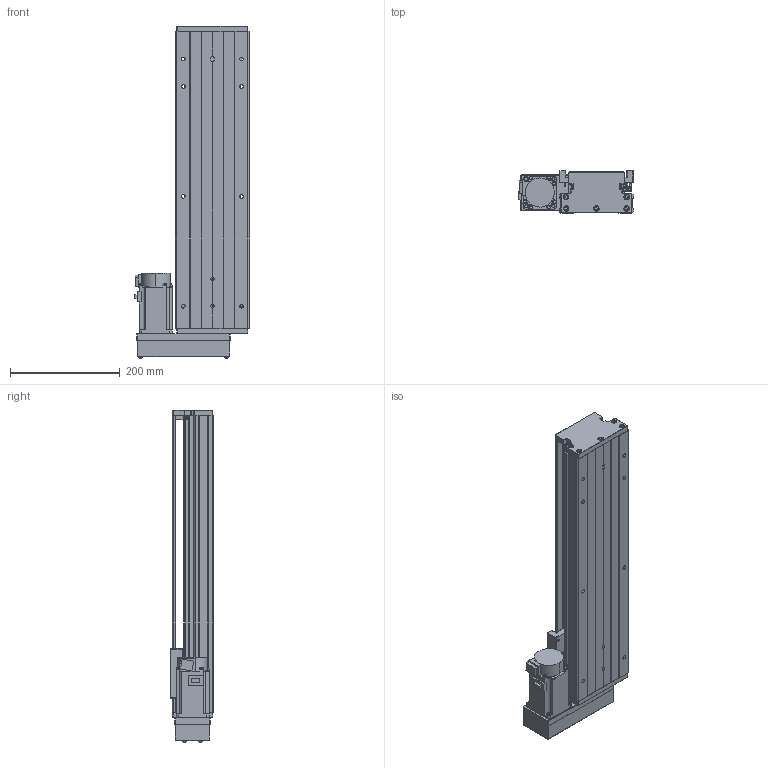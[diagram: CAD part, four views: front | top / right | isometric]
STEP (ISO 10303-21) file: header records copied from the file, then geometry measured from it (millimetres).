
FILE_DESCRIPTION (( 'STEP AP203' ), '1' );
FILE_NAME ('KTH130-400-BL-M40-C4.step', '2023-06-30T03:58:34', ( '微软用户' ), ( '微软中国' ), 'SwSTEP 2.0', 'SolidWorks 2020', '' );
FILE_SCHEMA (( 'CONFIG_CONTROL_DESIGN' ));
Length unit declared in the file: millimetre
Products named in the file (19): HG-KN43J-S100; KTH130-002_KTH130-002; EE_SX911P_R; GBT 70.2-M4¡Á35_M4¡Á35; KTH130-004; CTHA60-016; GTH14-015-2_CTHA86-015-2; KTH130-005; GBT 70.1-M3℅5; GTH14-033; GB1155-6X6; GBT77-2000 M3×3; KTH130-400-BL-M40-C4; GBT70.1 M5℅16; す晦芛蹟隊 M3℅5; GBT 70.2-M3¡Á5_M3¡Á6; GBT 70.3-M3℅8; GTH14-001_400; CTHA60-017
Assembly tree (53 placements, depth 2):
  KTH130-400-BL-M40-C4
    GTH14-001_400
    KTH130-002_KTH130-002
    KTH130-004
    KTH130-005
    GB1155-6X6  x2
    GBT70.1 M5℅16  x10
    GBT 70.2-M3¡Á5_M3¡Á6  x4
    CTHA60-017  x3
    EE_SX911P_R  x3
    CTHA60-016  x2
    GBT 70.1-M3℅5  x6
    GBT77-2000 M3×3  x6
    す晦芛蹟隊 M3℅5  x2
    GBT 70.3-M3℅8  x4
    HG-KN43J-S100
    GBT 70.2-M4¡Á35_M4¡Á35  x4
    GTH14-015-2_CTHA86-015-2
    GTH14-033
Bounding box: 209.3 x 78 x 604.2 mm (x, y, z)
Volume: 3618144.8 mm3; surface area: 622092.4 mm2
Topology: 56 solids, 56 shells, 2213 faces, 5342 edges, 3326 vertices
Faces by surface type: plane 1195, cylinder 604, cone 290, torus 100, sphere 24
Entity records: 40250 total; most frequent: CARTESIAN_POINT 8584, DIRECTION 5979, ORIENTED_EDGE 5884, EDGE_CURVE 2942, AXIS2_PLACEMENT_3D 2052, VERTEX_POINT 1879, VECTOR 1875, LINE 1875
